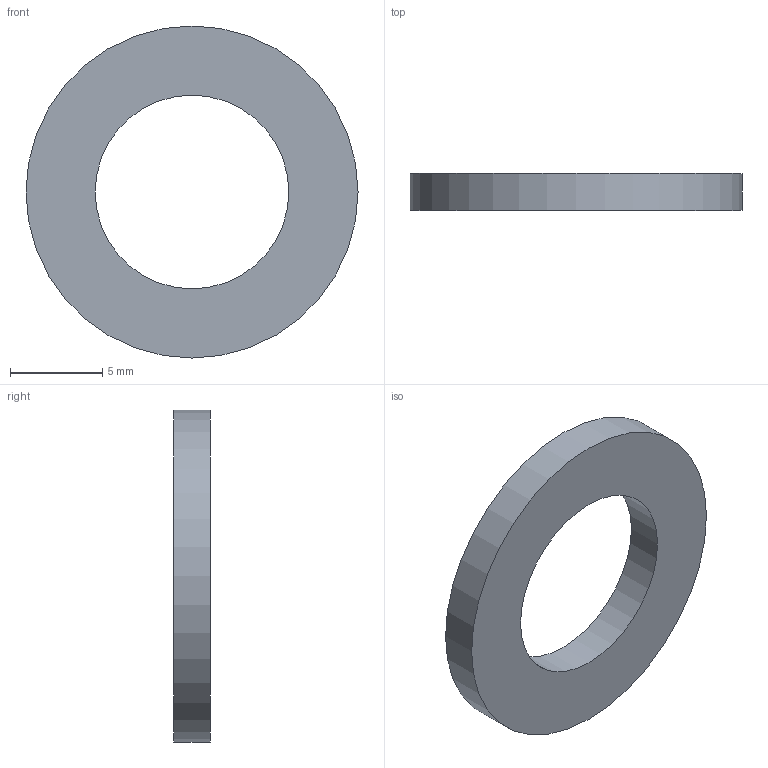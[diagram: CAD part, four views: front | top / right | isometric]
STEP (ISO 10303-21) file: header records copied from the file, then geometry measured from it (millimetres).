
FILE_DESCRIPTION(/* description */ (''),/* implementation_level */ '2;1');
FILE_NAME(/* name */ '',/* time_stamp */ '2024-04-08T11:15:19+09:00',/* author */ ('jhkim'),/* organization */ (''),/* preprocessor_version */ 'ST-DEVELOPER v20',/* originating_system */ 'Autodesk Inventor 2025',/* authorisation */ '');
FILE_SCHEMA (('AUTOMOTIVE_DESIGN { 1 0 10303 214 3 1 1 }'));
Length unit declared in the file: millimetre
Products named in the file (1): 평와셔 M10
Bounding box: 18 x 2 x 18 mm (x, y, z)
Volume: 335.8 mm3; surface area: 514.8 mm2
Topology: 1 solids, 1 shells, 4 faces, 6 edges, 4 vertices
Faces by surface type: cylinder 2, plane 2
Full cylindrical faces by diameter (mm): 10.5 x1, 18 x1
Entity records: 141 total; most frequent: DIRECTION 20, CARTESIAN_POINT 15, ORIENTED_EDGE 12, AXIS2_PLACEMENT_3D 9, EDGE_LOOP 6, EDGE_CURVE 6, FACE_OUTER_BOUND 4, CIRCLE 4
